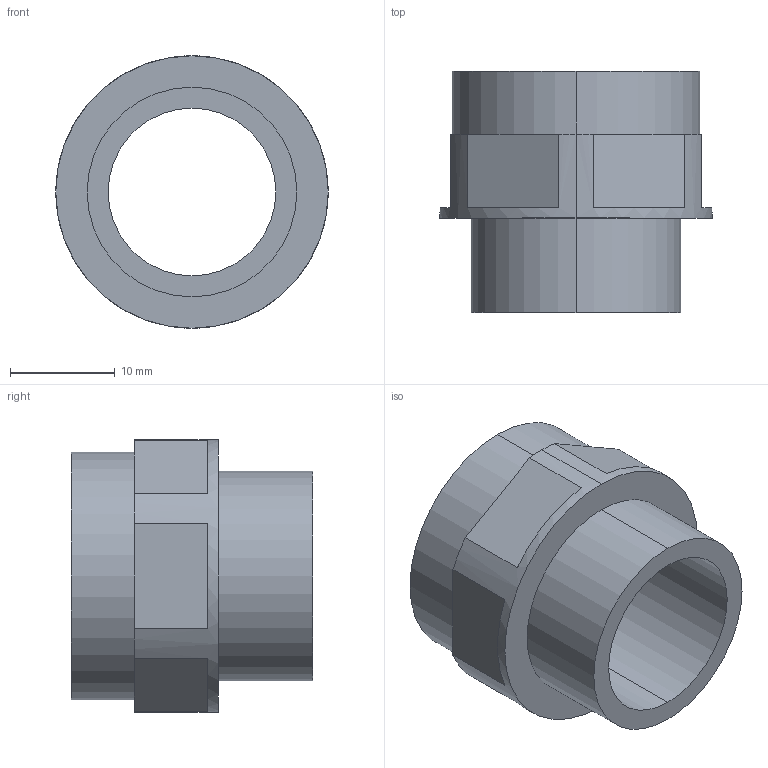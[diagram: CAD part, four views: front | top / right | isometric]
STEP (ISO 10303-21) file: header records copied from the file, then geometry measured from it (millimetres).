
FILE_DESCRIPTION (( 'STEP AP203' ), '1' );
FILE_NAME ('ZF_STEP_VF_ADPG13-M20_A19.STEP', '2019-06-19T09:04:26', ( 'utente' ), ( 'Microsoft' ), 'SwSTEP 2.0', 'SolidWorks 2014', '' );
FILE_SCHEMA (( 'CONFIG_CONTROL_DESIGN' ));
Length unit declared in the file: millimetre
Products named in the file (1): ZF_STEP_VF_ADPG13-M20_A19
Bounding box: 26 x 23 x 26 mm (x, y, z)
Volume: 4237.4 mm3; surface area: 3533.9 mm2
Topology: 1 solids, 1 shells, 27 faces, 66 edges, 44 vertices
Faces by surface type: plane 17, cylinder 10
Entity records: 893 total; most frequent: DIRECTION 154, CARTESIAN_POINT 138, ORIENTED_EDGE 132, EDGE_CURVE 66, AXIS2_PLACEMENT_3D 60, VERTEX_POINT 44, LINE 34, VECTOR 34
